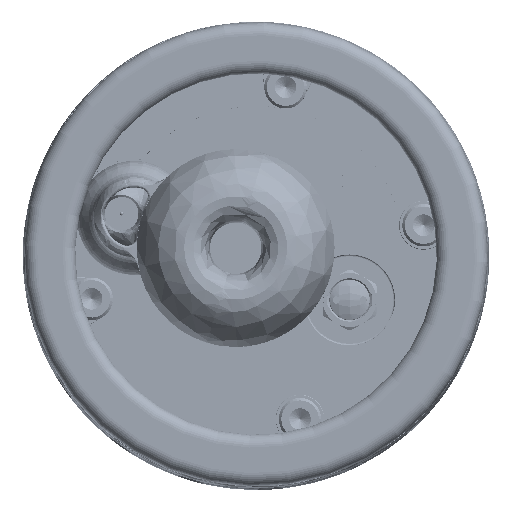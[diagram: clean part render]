
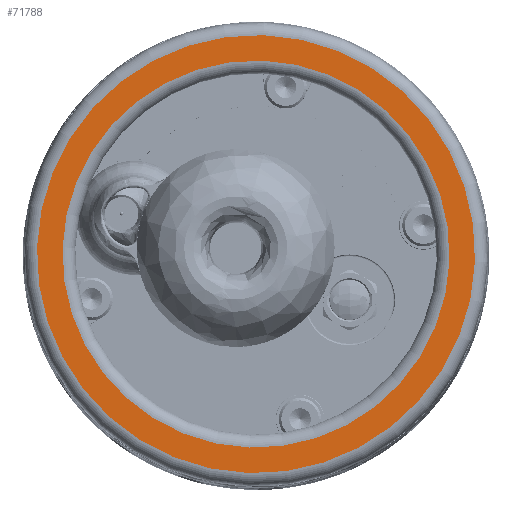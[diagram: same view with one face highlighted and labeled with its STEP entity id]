
A CAD part, top view. The second image highlights one B-rep face of the part: STEP entity #71788.
In plain terms, the highlighted planar face has unit normal (0, 0, 1).
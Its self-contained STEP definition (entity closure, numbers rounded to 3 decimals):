
#14554 = CARTESIAN_POINT ( 'NONE',  ( 84.136, 39.801, 58.72 ) ) ;
#16176 = DIRECTION ( 'NONE',  ( 0., 0., 1. ) ) ;
#25463 = EDGE_LOOP ( 'NONE', ( #91625, #87137 ) ) ;
#31101 = AXIS2_PLACEMENT_3D ( 'NONE', #145033, #143909, #77205 ) ;
#31557 = DIRECTION ( 'NONE',  ( 0., 0., -1. ) ) ;
#35289 = VERTEX_POINT ( 'NONE', #14554 ) ;
#36265 = ORIENTED_EDGE ( 'NONE', *, *, #112770, .F. ) ;
#49177 = CARTESIAN_POINT ( 'NONE',  ( 29.552, -47.546, 58.72 ) ) ;
#49480 = CIRCLE ( 'NONE', #106625, 51.5 ) ;
#50714 = CARTESIAN_POINT ( 'NONE',  ( 56.844, -3.873, 58.72 ) ) ;
#56587 = CIRCLE ( 'NONE', #67630, 45.5 ) ;
#61269 = DIRECTION ( 'NONE',  ( -0.53, -0.848, 0. ) ) ;
#64657 = VERTEX_POINT ( 'NONE', #117997 ) ;
#67630 = AXIS2_PLACEMENT_3D ( 'NONE', #107824, #16176, #163416 ) ;
#70161 = FACE_BOUND ( 'NONE', #129667, .T. ) ;
#71788 = ADVANCED_FACE ( 'NONE', ( #70161, #147472 ), #110414, .F. ) ;
#73956 = CARTESIAN_POINT ( 'NONE',  ( 56.844, -3.873, 58.72 ) ) ;
#76548 = EDGE_CURVE ( 'NONE', #85941, #35289, #113879, .T. ) ;
#77205 = DIRECTION ( 'NONE',  ( -0.53, -0.848, 0. ) ) ;
#83285 = EDGE_CURVE ( 'NONE', #35289, #85941, #49480, .T. ) ;
#85559 = CIRCLE ( 'NONE', #133967, 45.5 ) ;
#85941 = VERTEX_POINT ( 'NONE', #49177 ) ;
#87137 = ORIENTED_EDGE ( 'NONE', *, *, #83285, .T. ) ;
#87353 = DIRECTION ( 'NONE',  ( 0., 0., 1. ) ) ;
#91625 = ORIENTED_EDGE ( 'NONE', *, *, #76548, .T. ) ;
#95073 = EDGE_CURVE ( 'NONE', #118870, #64657, #56587, .T. ) ;
#95887 = ORIENTED_EDGE ( 'NONE', *, *, #95073, .F. ) ;
#101563 = DIRECTION ( 'NONE',  ( 0., 0., 1. ) ) ;
#106625 = AXIS2_PLACEMENT_3D ( 'NONE', #73956, #87353, #152896 ) ;
#107824 = CARTESIAN_POINT ( 'NONE',  ( 56.844, -3.873, 58.72 ) ) ;
#110414 = PLANE ( 'NONE',  #130995 ) ;
#112770 = EDGE_CURVE ( 'NONE', #64657, #118870, #85559, .T. ) ;
#113879 = CIRCLE ( 'NONE', #31101, 51.5 ) ;
#117997 = CARTESIAN_POINT ( 'NONE',  ( 80.956, 34.713, 58.72 ) ) ;
#118870 = VERTEX_POINT ( 'NONE', #134949 ) ;
#129667 = EDGE_LOOP ( 'NONE', ( #95887, #36265 ) ) ;
#130995 = AXIS2_PLACEMENT_3D ( 'NONE', #153078, #31557, #138451 ) ;
#133967 = AXIS2_PLACEMENT_3D ( 'NONE', #50714, #101563, #61269 ) ;
#134949 = CARTESIAN_POINT ( 'NONE',  ( 32.731, -42.458, 58.72 ) ) ;
#138451 = DIRECTION ( 'NONE',  ( 0.53, 0.848, 0. ) ) ;
#143909 = DIRECTION ( 'NONE',  ( 0., 0., 1. ) ) ;
#145033 = CARTESIAN_POINT ( 'NONE',  ( 56.844, -3.873, 58.72 ) ) ;
#147472 = FACE_OUTER_BOUND ( 'NONE', #25463, .T. ) ;
#152896 = DIRECTION ( 'NONE',  ( -0.53, -0.848, 0. ) ) ;
#153078 = CARTESIAN_POINT ( 'NONE',  ( 95.429, -27.985, 58.72 ) ) ;
#163416 = DIRECTION ( 'NONE',  ( -0.53, -0.848, 0. ) ) ;
